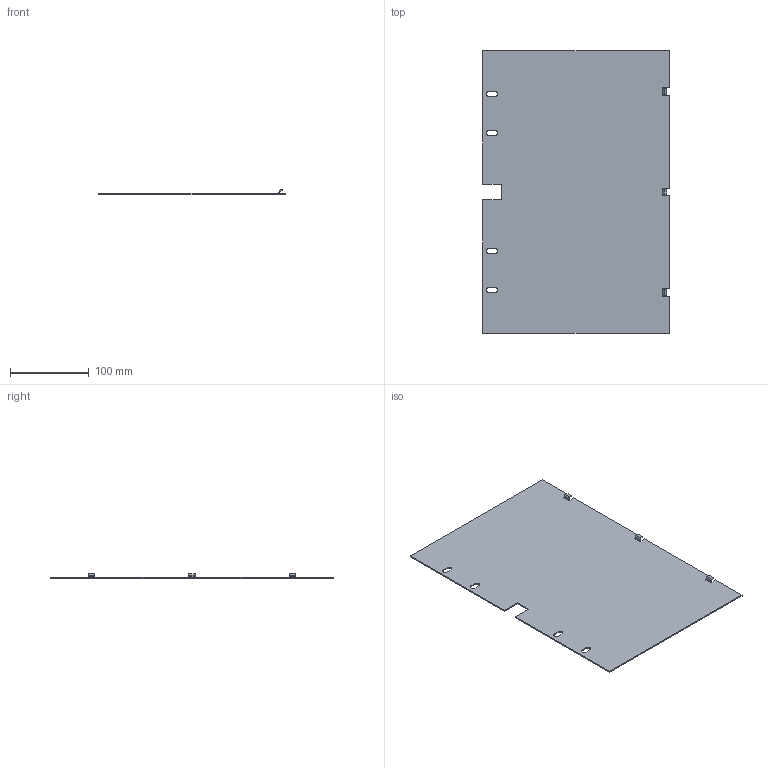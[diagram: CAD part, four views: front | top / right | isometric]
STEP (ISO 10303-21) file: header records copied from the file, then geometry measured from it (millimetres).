
FILE_DESCRIPTION (( 'STEP AP203' ), '1' );
FILE_NAME ('EUSV-025040.STEP', '2015-04-22T09:39:35', ( 'Admin' ), ( '' ), 'SwSTEP 2.0', 'SolidWorks 2014', '' );
FILE_SCHEMA (( 'CONFIG_CONTROL_DESIGN' ));
Length unit declared in the file: millimetre
Products named in the file (1): EUSV-025040
Bounding box: 238 x 360 x 5.95 mm (x, y, z)
Volume: 127213.5 mm3; surface area: 171858.2 mm2
Topology: 1 solids, 1 shells, 81 faces, 225 edges, 146 vertices
Faces by surface type: plane 57, cylinder 24
Entity records: 2664 total; most frequent: CARTESIAN_POINT 453, ORIENTED_EDGE 450, DIRECTION 437, EDGE_CURVE 225, VECTOR 177, LINE 177, VERTEX_POINT 146, AXIS2_PLACEMENT_3D 130
